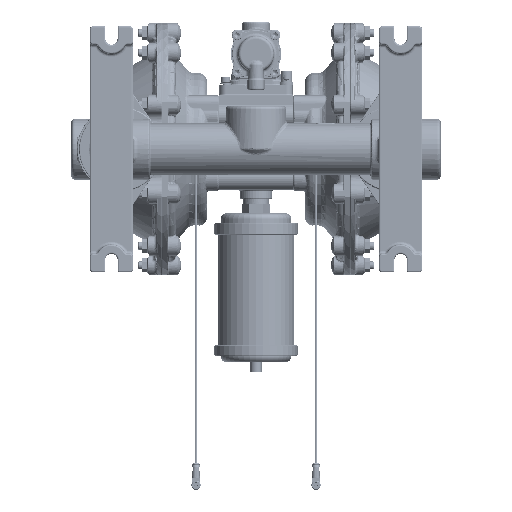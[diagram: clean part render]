
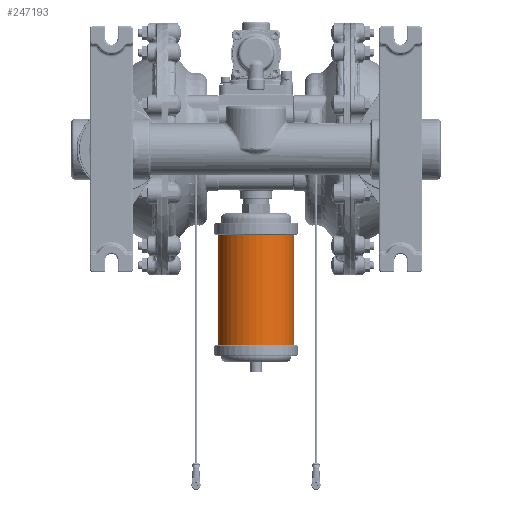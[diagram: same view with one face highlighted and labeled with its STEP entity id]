
A CAD part, front view. The second image highlights one B-rep face of the part: STEP entity #247193.
In plain terms, the highlighted cylindrical face has radius 39.688 mm (diameter 79.375 mm), a partial arc.
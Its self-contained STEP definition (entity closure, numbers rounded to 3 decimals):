
#66470=CARTESIAN_POINT('',(0.013,-34.138,-96.101));
#66471=DIRECTION('',(0.,0.,1.));
#66472=DIRECTION('',(-1.,0.,0.));
#66473=AXIS2_PLACEMENT_3D('',#66470,#66471,#66472);
#66480=DIRECTION('',(0.,0.,1.));
#66481=VECTOR('',#66480,114.3);
#66482=CARTESIAN_POINT('',(-39.675,-34.138,-210.401));
#66483=LINE('',#66482,#66481);
#66494=CARTESIAN_POINT('',(0.013,-34.138,-210.401));
#66495=DIRECTION('',(0.,0.,1.));
#66496=DIRECTION('',(-1.,0.,0.));
#66497=AXIS2_PLACEMENT_3D('',#66494,#66495,#66496);
#66592=DIRECTION('',(0.,0.,1.));
#66593=VECTOR('',#66592,114.3);
#66594=CARTESIAN_POINT('',(39.7,-34.138,-210.401));
#66595=LINE('',#66594,#66593);
#147513=CARTESIAN_POINT('',(-39.675,-34.138,-210.401));
#147514=CARTESIAN_POINT('',(39.7,-34.138,-210.401));
#147515=VERTEX_POINT('',#147513);
#147516=VERTEX_POINT('',#147514);
#147517=CARTESIAN_POINT('',(-39.675,-34.138,-96.101));
#147518=CARTESIAN_POINT('',(39.7,-34.138,-96.101));
#147519=VERTEX_POINT('',#147517);
#147520=VERTEX_POINT('',#147518);
#247179=CARTESIAN_POINT('',(0.013,-34.138,-210.401));
#247180=DIRECTION('',(0.,0.,-1.));
#247181=DIRECTION('',(-1.,0.,0.));
#247182=AXIS2_PLACEMENT_3D('',#247179,#247180,#247181);
#247183=CYLINDRICAL_SURFACE('',#247182,39.688);
#247185=ORIENTED_EDGE('',*,*,#247184,.F.);
#247187=ORIENTED_EDGE('',*,*,#247186,.T.);
#247188=ORIENTED_EDGE('',*,*,#247172,.T.);
#247190=ORIENTED_EDGE('',*,*,#247189,.F.);
#247191=EDGE_LOOP('',(#247185,#247187,#247188,#247190));
#247192=FACE_OUTER_BOUND('',#247191,.F.);
#247193=ADVANCED_FACE('',(#247192),#247183,.T.);
#66474=CIRCLE('',#66473,39.688);
#66498=CIRCLE('',#66497,39.688);
#247172=EDGE_CURVE('',#147519,#147520,#66474,.T.);
#247184=EDGE_CURVE('',#147515,#147516,#66498,.T.);
#247186=EDGE_CURVE('',#147515,#147519,#66483,.T.);
#247189=EDGE_CURVE('',#147516,#147520,#66595,.T.);
